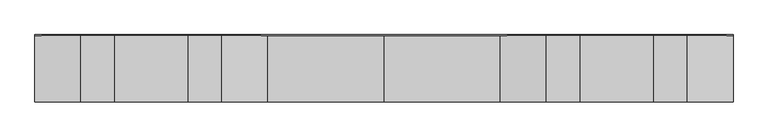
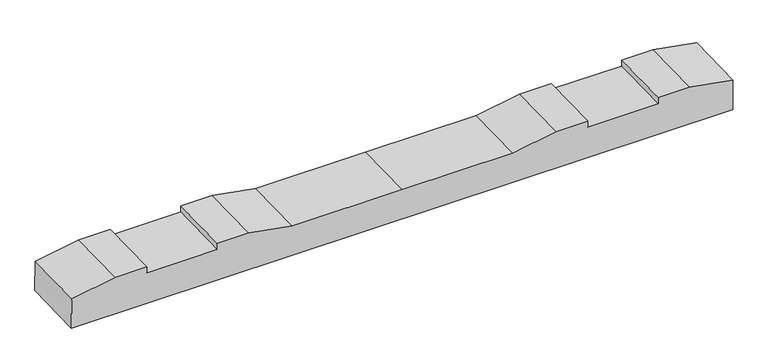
"""IFC4 building model written with IfcOpenShell, lengths in millimetres: proxy geometry, 轨枕-立面角度 : 轨枕-立面角度."""

from ifc_helpers import new_model, si_unit, frame, origin, place, context, project, spatial, polyline, outline, extrude, source, transform, mapped, element, save


def generic_models_1d941e77(model_context):
    return source(origin(), model_context, "Body", "SweptSolid", [
        extrude(outline(polyline([(0.0, 0.0), (2099.7669328, 0.0), (2099.7669328, -100.0206889), (1961.8834664, -124.5), (1861.8834664, -124.5), (1861.8834664, -104.5), (1637.8834664, -104.5), (1637.8834664, -124.5), (1537.8834664, -124.5), (1399.8834664, -100.0), (1049.8834664, -100.0), (699.8834664, -100.0), (561.8834664, -124.5), (461.8834664, -124.5), (461.8834664, -104.5), (237.8834664, -104.5), (237.8834664, -124.5), (137.8834664, -124.5), (0.0, -100.0206889), (0.0, 0.0)])), frame((-1049.8834664, -97.4107255, -106.917728), z_axis=(0.0, 0.9997000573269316, 0.02449072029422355), x_axis=(1.0, 0.0, 0.0)), (0.0, 0.0, 1.0), 200.0),
    ])


if __name__ == "__main__":
    model = new_model("IFC4")
    model_context = context("Model", 3, world=origin())
    ifc_project = project(units=[si_unit("LENGTHUNIT", "METRE", prefix="MILLI")], contexts=[model_context])
    site = spatial("IfcSite", under=ifc_project)
    building = spatial("IfcBuilding", under=site)
    placement = place(None, origin())
    generic_models_shape = generic_models_1d941e77(model_context)
    element("IfcBuildingElementProxy", 1, Name="轨枕-立面角度 : 轨枕-立面角度", ObjectType="轨枕-立面角度 : 轨枕-立面角度", at=placement, inside=building, context=model_context, shape_type="MappedRepresentation", body=[
        mapped(generic_models_shape, transform((0.0, 0.0, 0.0), x_axis=(1.0, 0.0, 0.0), y_axis=(0.0, 1.0, 0.0), z_axis=(0.0, 0.0, 1.0))),
    ])
    save(model, "model.ifc")
